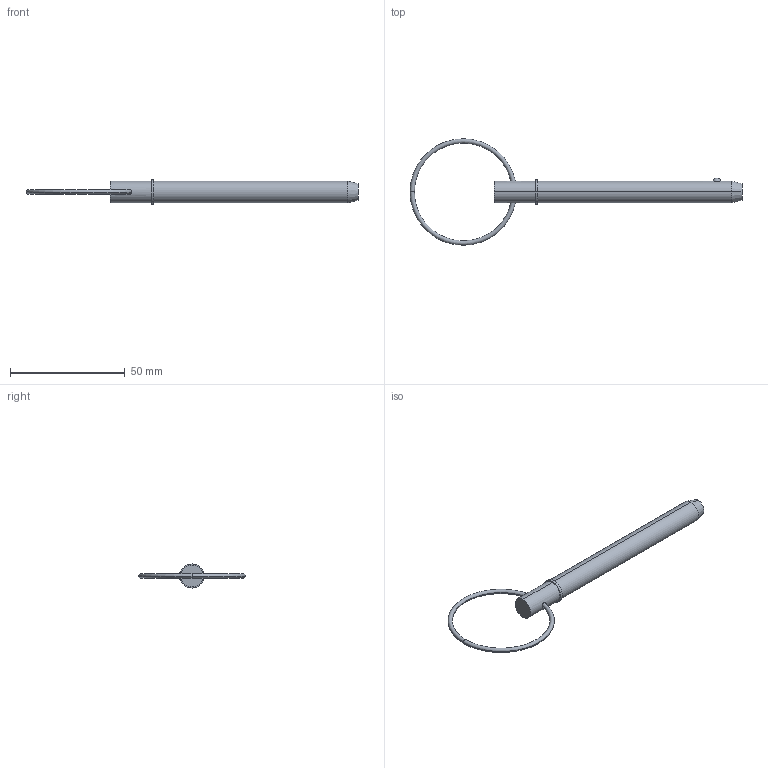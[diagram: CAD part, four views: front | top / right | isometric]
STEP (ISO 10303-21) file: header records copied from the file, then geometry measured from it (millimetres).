
FILE_DESCRIPTION (( 'STEP AP203' ), '1' );
FILE_NAME ('33014.W3730.step', '2024-11-04T08:26:49', ( '' ), ( '' ), 'SwSTEP 2.0', 'SolidWorks 2019', '' );
FILE_SCHEMA (( 'CONFIG_CONTROL_DESIGN' ));
Length unit declared in the file: millimetre
Products named in the file (3): Part1_33014.W3730; 33014.W3730; Part2_33014.W3730
Assembly tree (2 placements, depth 2):
  33014.W3730
    Part1_33014.W3730
    Part2_33014.W3730
Bounding box: 144.53 x 46.36 x 10.48 mm (x, y, z)
Volume: 8005.4 mm3; surface area: 4267.9 mm2
Topology: 2 solids, 2 shells, 22 faces, 43 edges, 26 vertices
Faces by surface type: torus 8, cylinder 6, plane 4, sphere 2, cone 2
Entity records: 1005 total; most frequent: CARTESIAN_POINT 228, DIRECTION 120, ORIENTED_EDGE 86, AXIS2_PLACEMENT_3D 56, EDGE_CURVE 43, CIRCLE 29, EDGE_LOOP 27, PERSON_AND_ORGANIZATION 26
